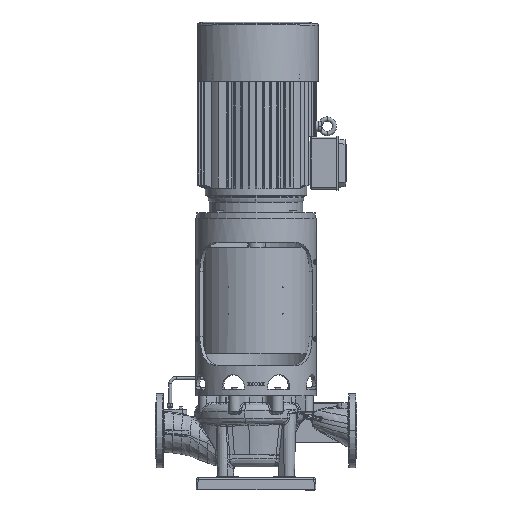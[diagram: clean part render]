
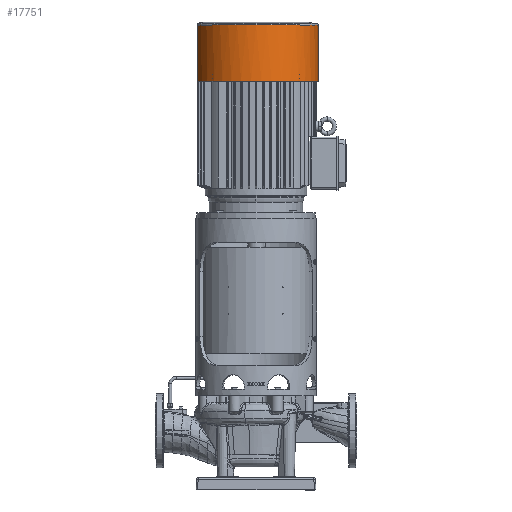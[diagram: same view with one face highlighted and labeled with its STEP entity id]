
A CAD part, top view. The second image highlights one B-rep face of the part: STEP entity #17751.
In plain terms, the highlighted cylindrical face has radius 210 mm (diameter 420 mm), a partial arc.
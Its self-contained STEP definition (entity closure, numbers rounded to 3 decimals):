
#5382=CARTESIAN_POINT('',(0.,1384.,0.));
#5383=DIRECTION('',(0.,1.,0.));
#5384=DIRECTION('',(-0.943,0.,0.333));
#5385=AXIS2_PLACEMENT_3D('',#5382,#5383,#5384);
#5387=CARTESIAN_POINT('',(0.,1384.,0.));
#5388=DIRECTION('',(0.,1.,0.));
#5389=DIRECTION('',(1.,0.,0.));
#5390=AXIS2_PLACEMENT_3D('',#5387,#5388,#5389);
#5406=DIRECTION('',(0.,-1.,0.));
#5407=VECTOR('',#5406,189.548);
#5408=CARTESIAN_POINT('',(-198.,1573.548,
-69.971));
#5409=LINE('',#5408,#5407);
#5410=DIRECTION('',(0.,1.,0.));
#5411=VECTOR('',#5410,189.548);
#5412=CARTESIAN_POINT('',(-198.,1384.,69.971));
#5413=LINE('',#5412,#5411);
#5414=CARTESIAN_POINT('',(0.,1573.548,
0.));
#5415=DIRECTION('',(0.,-1.,0.));
#5416=DIRECTION('',(1.,0.,0.));
#5417=AXIS2_PLACEMENT_3D('',#5414,#5415,#5416);
#5419=CARTESIAN_POINT('',(0.,1573.548,
0.));
#5420=DIRECTION('',(0.,-1.,0.));
#5421=DIRECTION('',(0.,0.,1.));
#5422=AXIS2_PLACEMENT_3D('',#5419,#5420,#5421);
#5461=CARTESIAN_POINT('',(-198.,1573.548,
-69.971));
#5463=CARTESIAN_POINT('',(0.,1573.548,
0.));
#5464=DIRECTION('',(0.,-1.,0.));
#5465=DIRECTION('',(-0.943,0.,-0.333));
#5466=AXIS2_PLACEMENT_3D('',#5463,#5464,#5465);
#5468=CARTESIAN_POINT('',(0.,1573.548,
0.));
#5469=DIRECTION('',(0.,-1.,0.));
#5470=DIRECTION('',(0.,0.,-1.));
#5471=AXIS2_PLACEMENT_3D('',#5468,#5469,#5470);
#5490=CARTESIAN_POINT('',(-198.,1573.548,69.971));
#10568=VERTEX_POINT('',#5461);
#10569=VERTEX_POINT('',#5490);
#10570=CARTESIAN_POINT('',(-198.,1384.,69.971));
#10571=VERTEX_POINT('',#10570);
#10572=CARTESIAN_POINT('',(-198.,1384.,-69.971));
#10573=VERTEX_POINT('',#10572);
#10574=CARTESIAN_POINT('',(210.,1573.548,
0.));
#10575=CARTESIAN_POINT('',(0.,1573.548,210.));
#10576=VERTEX_POINT('',#10574);
#10577=VERTEX_POINT('',#10575);
#10578=CARTESIAN_POINT('',(0.,1573.548,-210.));
#10579=VERTEX_POINT('',#10578);
#10580=CARTESIAN_POINT('',(210.,1384.,0.));
#10581=VERTEX_POINT('',#10580);
#17730=CARTESIAN_POINT('',(0.,1577.339,
0.));
#17731=DIRECTION('',(0.,-1.,0.));
#17732=DIRECTION('',(1.,0.,0.));
#17733=AXIS2_PLACEMENT_3D('',#17730,#17731,#17732);
#17734=CYLINDRICAL_SURFACE('',#17733,210.);
#17736=ORIENTED_EDGE('',*,*,#17735,.F.);
#17738=ORIENTED_EDGE('',*,*,#17737,.F.);
#17740=ORIENTED_EDGE('',*,*,#17739,.F.);
#17742=ORIENTED_EDGE('',*,*,#17741,.T.);
#17743=ORIENTED_EDGE('',*,*,#17717,.F.);
#17744=ORIENTED_EDGE('',*,*,#17715,.F.);
#17746=ORIENTED_EDGE('',*,*,#17745,.T.);
#17748=ORIENTED_EDGE('',*,*,#17747,.F.);
#17749=EDGE_LOOP('',(#17736,#17738,#17740,#17742,#17743,#17744,#17746,#17748));
#17750=FACE_OUTER_BOUND('',#17749,.F.);
#17751=ADVANCED_FACE('',(#17750),#17734,.T.);
#5386=CIRCLE('',#5385,210.);
#5391=CIRCLE('',#5390,210.);
#5418=CIRCLE('',#5417,210.);
#5423=CIRCLE('',#5422,210.);
#5467=CIRCLE('',#5466,210.);
#5472=CIRCLE('',#5471,210.);
#17715=EDGE_CURVE('',#10571,#10581,#5386,.T.);
#17717=EDGE_CURVE('',#10581,#10573,#5391,.T.);
#17735=EDGE_CURVE('',#10576,#10577,#5418,.T.);
#17737=EDGE_CURVE('',#10579,#10576,#5472,.T.);
#17739=EDGE_CURVE('',#10568,#10579,#5467,.T.);
#17741=EDGE_CURVE('',#10568,#10573,#5409,.T.);
#17745=EDGE_CURVE('',#10571,#10569,#5413,.T.);
#17747=EDGE_CURVE('',#10577,#10569,#5423,.T.);
